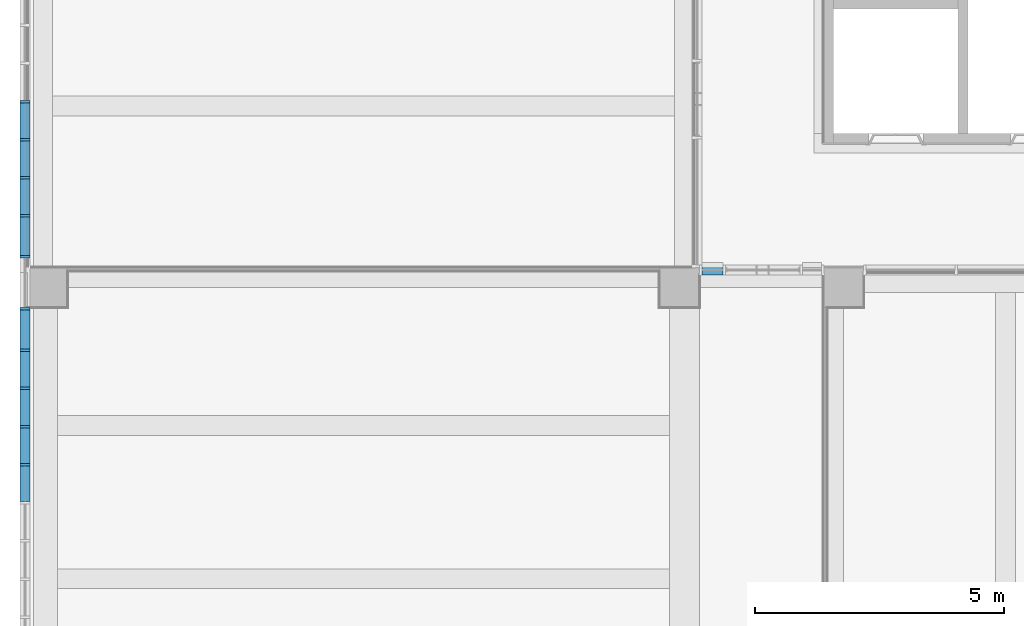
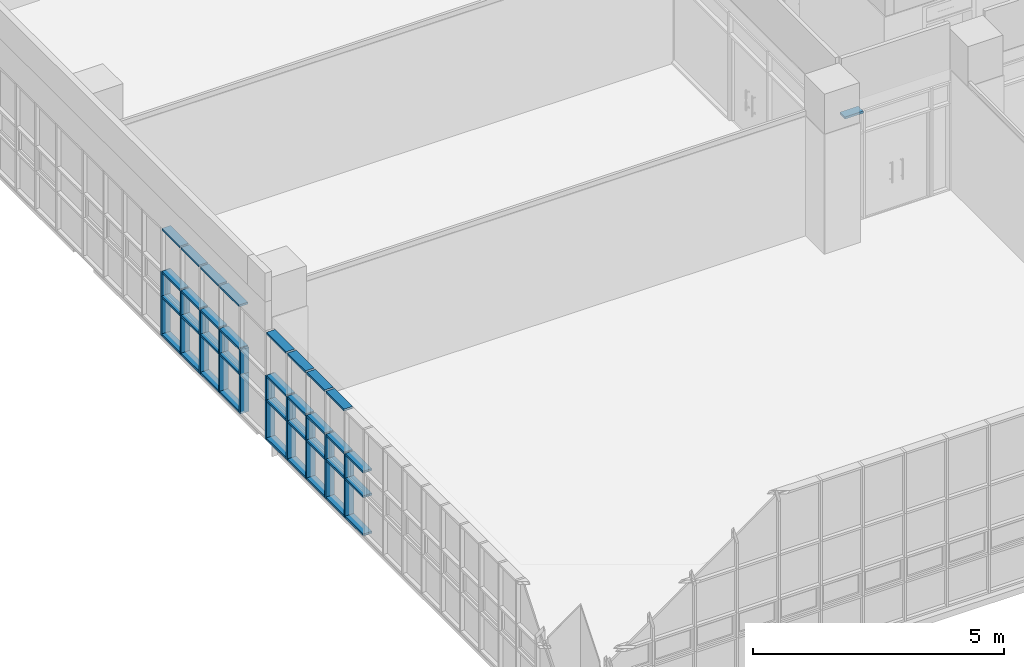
# One storey, part 14 of 76: 56 members, 2 elements without a shape of their own.
"""IFC2X3 building model written with IfcOpenShell, lengths in millimetres."""

from ifc_helpers import new_model, entity, si_unit, converted_unit, derived_unit, direction, frame, origin, origin_2d_with_axis, place, context, subcontext, project, spatial, rectangle, extrude, source, transform, mapped, material, type_object, type_shapes, element, aggregate, save


model = new_model("IFC2X3")

# Units and contexts
model_context = context("Model", 3, precision=0.01, world=origin(), true_north=direction((6.123031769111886e-17, 1.0)))
body_context = subcontext(model_context, "Body", "Model", "MODEL_VIEW")
ifc_project = project(units=[si_unit("LENGTHUNIT", "METRE", prefix="MILLI"), si_unit("AREAUNIT", "SQUARE_METRE"), si_unit("VOLUMEUNIT", "CUBIC_METRE"), converted_unit("PLANEANGLEUNIT", "DEGREE", entity("IfcRatioMeasure", 0.017453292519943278), si_unit("PLANEANGLEUNIT", "RADIAN"), dimensions=[0, 0, 0, 0, 0, 0, 0]), si_unit("MASSUNIT", "GRAM", prefix="KILO"), derived_unit("MASSDENSITYUNIT", [(si_unit("MASSUNIT", "GRAM", prefix="KILO"), 1), (si_unit("LENGTHUNIT", "METRE"), -3)]), derived_unit("MOMENTOFINERTIAUNIT", [(si_unit("LENGTHUNIT", "METRE"), 4)]), si_unit("TIMEUNIT", "SECOND"), si_unit("FREQUENCYUNIT", "HERTZ"), si_unit("THERMODYNAMICTEMPERATUREUNIT", "DEGREE_CELSIUS"), derived_unit("THERMALTRANSMITTANCEUNIT", [(si_unit("MASSUNIT", "GRAM", prefix="KILO"), 1), (si_unit("THERMODYNAMICTEMPERATUREUNIT", "KELVIN"), -1), (si_unit("TIMEUNIT", "SECOND"), -3)]), derived_unit("VOLUMETRICFLOWRATEUNIT", [(si_unit("LENGTHUNIT", "METRE"), 3), (si_unit("TIMEUNIT", "SECOND"), -1)]), derived_unit("MASSFLOWRATEUNIT", [(si_unit("MASSUNIT", "GRAM", prefix="KILO"), 1), (si_unit("TIMEUNIT", "SECOND"), -1)]), derived_unit("ROTATIONALFREQUENCYUNIT", [(si_unit("TIMEUNIT", "SECOND"), -1)]), si_unit("ELECTRICCURRENTUNIT", "AMPERE"), si_unit("ELECTRICVOLTAGEUNIT", "VOLT"), si_unit("POWERUNIT", "WATT"), si_unit("FORCEUNIT", "NEWTON", prefix="KILO"), si_unit("ILLUMINANCEUNIT", "LUX"), si_unit("LUMINOUSFLUXUNIT", "LUMEN"), si_unit("LUMINOUSINTENSITYUNIT", "CANDELA"), derived_unit("USERDEFINED", [(si_unit("MASSUNIT", "GRAM", prefix="KILO"), -1), (si_unit("LENGTHUNIT", "METRE"), -2), (si_unit("TIMEUNIT", "SECOND"), 3), (si_unit("LUMINOUSFLUXUNIT", "LUMEN"), 1)]), derived_unit("SOUNDPOWERUNIT", [(si_unit("MASSUNIT", "GRAM", prefix="KILO"), 1), (si_unit("LENGTHUNIT", "METRE"), 2), (si_unit("TIMEUNIT", "SECOND"), -3)]), derived_unit("SOUNDPRESSUREUNIT", [(si_unit("MASSUNIT", "GRAM", prefix="KILO"), 1), (si_unit("LENGTHUNIT", "METRE"), -1), (si_unit("TIMEUNIT", "SECOND"), -2)]), derived_unit("LINEARVELOCITYUNIT", [(si_unit("LENGTHUNIT", "METRE"), 1), (si_unit("TIMEUNIT", "SECOND"), -1)]), si_unit("PRESSUREUNIT", "PASCAL"), derived_unit("USERDEFINED", [(si_unit("LENGTHUNIT", "METRE"), -2), (si_unit("MASSUNIT", "GRAM", prefix="KILO"), 1), (si_unit("TIMEUNIT", "SECOND"), -2)]), derived_unit("LINEARFORCEUNIT", [(si_unit("MASSUNIT", "GRAM", prefix="KILO"), 1), (si_unit("LENGTHUNIT", "METRE"), 1), (si_unit("TIMEUNIT", "SECOND"), -2), (si_unit("LENGTHUNIT", "METRE"), -1)]), derived_unit("PLANARFORCEUNIT", [(si_unit("MASSUNIT", "GRAM", prefix="KILO"), 1), (si_unit("LENGTHUNIT", "METRE"), 1), (si_unit("TIMEUNIT", "SECOND"), -2), (si_unit("LENGTHUNIT", "METRE"), -2)])], contexts=[model_context])

# Site, building, storey
site_placement = place(None, frame((-14167.972527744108, -657.2125860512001, 0.0)))
site = spatial("IfcSite", under=ifc_project, at=site_placement, Name="Default", CompositionType="ELEMENT")
building_placement = place(site_placement, origin())
building = spatial("IfcBuilding", under=site, at=building_placement, Name="Sample Building", CompositionType="ELEMENT")
storey_placement = place(building_placement, frame((0.0, 0.0, 9300.0)))
storey = spatial("IfcBuildingStorey", under=building, at=storey_placement, Name="지상 3층", CompositionType="ELEMENT", Elevation=9300.000000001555)

# Curtain wall, members
curtain_wall_type = type_object("IfcCurtainWallType", Name="커튼월:CW112-스테인리스 스틸 커튼월", PredefinedType="NOTDEFINED")
curtain_wall_1_placement = place(storey_placement, frame((0.0, 0.0, -9300.0)))
curtain_wall_1 = element("IfcCurtainWall", 1, at=curtain_wall_1_placement, inside=storey, type_object=curtain_wall_type, Name="커튼월:CW112-스테인리스 스틸 커튼월", ObjectType="커튼월:CW112-스테인리스 스틸 커튼월")
ifc_material = material(Name="<Unnamed>")
member_type_1 = type_object("IfcMemberType", Name="직사각형 멀리언:CW200-직사각형 멀리언 50x200mm", PredefinedType="MULLION", material=ifc_material)
shared_shape_1 = source(origin(), body_context, "Body", "SweptSolid", [
    extrude(rectangle(XDim=200.0, YDim=50.0, at=origin_2d_with_axis()), frame((0.0, 0.0, -600.0), z_axis=(0.0, 0.0, 1.0), x_axis=(0.0, -1.0, 0.0)), (0.0, 0.0, 1.0), 600.0),
])
type_shapes(member_type_1, [shared_shape_1])
member_1_placement = place(curtain_wall_1_placement, frame((14018.58790484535, 15629.817707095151, 10330.0), z_axis=(0.0, 0.0, -1.0), x_axis=(0.0, -1.0, 0.0)))
member_1 = element("IfcMember", 2, at=member_1_placement, type_object=member_type_1, material=ifc_material, Name="직사각형 멀리언:CW200-직사각형 멀리언 50x200mm", ObjectType="직사각형 멀리언:CW200-직사각형 멀리언 50x200mm", context=body_context, shape_type="MappedRepresentation", body=[
    mapped(shared_shape_1, transform((0.0, 0.0, 0.0), scale=1.0)),
])
member_2_placement = place(curtain_wall_1_placement, frame((14018.587904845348, 14863.817707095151, 10330.0), z_axis=(0.0, 0.0, -1.0), x_axis=(0.0, -1.0, 0.0)))
member_2 = element("IfcMember", 3, at=member_2_placement, type_object=member_type_1, material=ifc_material, Name="직사각형 멀리언:CW200-직사각형 멀리언 50x200mm", ObjectType="직사각형 멀리언:CW200-직사각형 멀리언 50x200mm", context=body_context, shape_type="MappedRepresentation", body=[
    mapped(shared_shape_1, transform((0.0, 0.0, 0.0), scale=1.0)),
])
member_3_placement = place(curtain_wall_1_placement, frame((14018.587904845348, 14097.817707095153, 10330.0), z_axis=(0.0, 0.0, -1.0), x_axis=(0.0, -1.0, 0.0)))
member_3 = element("IfcMember", 4, at=member_3_placement, type_object=member_type_1, material=ifc_material, Name="직사각형 멀리언:CW200-직사각형 멀리언 50x200mm", ObjectType="직사각형 멀리언:CW200-직사각형 멀리언 50x200mm", context=body_context, shape_type="MappedRepresentation", body=[
    mapped(shared_shape_1, transform((0.0, 0.0, 0.0), scale=1.0)),
])
member_4_placement = place(curtain_wall_1_placement, frame((14018.587904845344, 12231.817707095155, 10330.0), z_axis=(0.0, 0.0, -1.0), x_axis=(0.0, -1.0, 0.0)))
member_4 = element("IfcMember", 5, at=member_4_placement, type_object=member_type_1, material=ifc_material, Name="직사각형 멀리언:CW200-직사각형 멀리언 50x200mm", ObjectType="직사각형 멀리언:CW200-직사각형 멀리언 50x200mm", context=body_context, shape_type="MappedRepresentation", body=[
    mapped(shared_shape_1, transform((0.0, 0.0, 0.0), scale=1.0)),
])
member_5_placement = place(curtain_wall_1_placement, frame((14018.587904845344, 11395.81770709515, 10330.0), z_axis=(0.0, 0.0, -1.0), x_axis=(0.0, -1.0, 0.0)))
member_5 = element("IfcMember", 6, at=member_5_placement, type_object=member_type_1, material=ifc_material, Name="직사각형 멀리언:CW200-직사각형 멀리언 50x200mm", ObjectType="직사각형 멀리언:CW200-직사각형 멀리언 50x200mm", context=body_context, shape_type="MappedRepresentation", body=[
    mapped(shared_shape_1, transform((0.0, 0.0, 0.0), scale=1.0)),
])
member_6_placement = place(curtain_wall_1_placement, frame((14018.587904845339, 9097.817707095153, 10330.0), z_axis=(0.0, 0.0, -1.0), x_axis=(0.0, -1.0, 0.0)))
member_6 = element("IfcMember", 7, at=member_6_placement, type_object=member_type_1, material=ifc_material, Name="직사각형 멀리언:CW200-직사각형 멀리언 50x200mm", ObjectType="직사각형 멀리언:CW200-직사각형 멀리언 50x200mm", context=body_context, shape_type="MappedRepresentation", body=[
    mapped(shared_shape_1, transform((0.0, 0.0, 0.0), scale=1.0)),
])
member_7_placement = place(curtain_wall_1_placement, frame((14018.587904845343, 9863.817707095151, 10330.0), z_axis=(0.0, 0.0, -1.0), x_axis=(0.0, -1.0, 0.0)))
member_7 = element("IfcMember", 8, at=member_7_placement, type_object=member_type_1, material=ifc_material, Name="직사각형 멀리언:CW200-직사각형 멀리언 50x200mm", ObjectType="직사각형 멀리언:CW200-직사각형 멀리언 50x200mm", context=body_context, shape_type="MappedRepresentation", body=[
    mapped(shared_shape_1, transform((0.0, 0.0, 0.0), scale=1.0)),
])
member_8_placement = place(curtain_wall_1_placement, frame((14018.587904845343, 10629.817707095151, 10330.0), z_axis=(0.0, 0.0, -1.0), x_axis=(0.0, -1.0, 0.0)))
member_8 = element("IfcMember", 9, at=member_8_placement, type_object=member_type_1, material=ifc_material, Name="직사각형 멀리언:CW200-직사각형 멀리언 50x200mm", ObjectType="직사각형 멀리언:CW200-직사각형 멀리언 50x200mm", context=body_context, shape_type="MappedRepresentation", body=[
    mapped(shared_shape_1, transform((0.0, 0.0, 0.0), scale=1.0)),
])
member_9_placement = place(curtain_wall_1_placement, frame((14018.58790484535, 16395.817707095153, 10330.0), z_axis=(0.0, 0.0, -1.0), x_axis=(0.0, -1.0, 0.0)))
member_9 = element("IfcMember", 10, at=member_9_placement, type_object=member_type_1, material=ifc_material, Name="직사각형 멀리언:CW200-직사각형 멀리언 50x200mm", ObjectType="직사각형 멀리언:CW200-직사각형 멀리언 50x200mm", context=body_context, shape_type="MappedRepresentation", body=[
    mapped(shared_shape_1, transform((0.0, 0.0, 0.0), scale=1.0)),
])
member_10_placement = place(curtain_wall_1_placement, frame((14018.587904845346, 13271.817707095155, 10330.0), z_axis=(0.0, 0.0, -1.0), x_axis=(0.0, -1.0, 0.0)))
member_10 = element("IfcMember", 11, at=member_10_placement, type_object=member_type_1, material=ifc_material, Name="직사각형 멀리언:CW200-직사각형 멀리언 50x200mm", ObjectType="직사각형 멀리언:CW200-직사각형 멀리언 50x200mm", context=body_context, shape_type="MappedRepresentation", body=[
    mapped(shared_shape_1, transform((0.0, 0.0, 0.0), scale=1.0)),
])

# Curtain wall, member
curtain_wall_2_placement = place(storey_placement, frame((0.0, 0.0, -9300.0)))
curtain_wall_2 = element("IfcCurtainWall", 12, at=curtain_wall_2_placement, inside=storey, type_object=curtain_wall_type, Name="커튼월:CW112-스테인리스 스틸 커튼월", ObjectType="커튼월:CW112-스테인리스 스틸 커튼월")
member_type_2 = type_object("IfcMemberType", Name="직사각형 멀리언:CW200-직사각형 멀리언 50x200mm", PredefinedType="MULLION", material=ifc_material)
shared_shape_2 = source(origin(), body_context, "Body", "SweptSolid", [
    extrude(rectangle(XDim=200.0, YDim=50.0, at=origin_2d_with_axis()), frame((-25.0, 0.0, -423.1454999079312), z_axis=(0.0, 0.0, 1.0), x_axis=(0.0, -1.0, 0.0)), (0.0, 0.0, 1.0), 423.1454999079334),
])
type_shapes(member_type_2, [shared_shape_2])
member_11_placement = place(curtain_wall_2_placement, frame((27617.980314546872, 13012.212307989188, 12000.0), z_axis=(-1.0, 0.0, 0.0), x_axis=(0.0, 0.0, 1.0)))
member_11 = element("IfcMember", 13, at=member_11_placement, type_object=member_type_2, material=ifc_material, Name="직사각형 멀리언:CW200-직사각형 멀리언 50x200mm", ObjectType="직사각형 멀리언:CW200-직사각형 멀리언 50x200mm", context=body_context, shape_type="MappedRepresentation", body=[
    mapped(shared_shape_2, transform((0.0, 0.0, 0.0), scale=1.0)),
])
aggregate(curtain_wall_2, [member_11])

# Member
member_type_3 = type_object("IfcMemberType", Name="직사각형 멀리언:CW200-직사각형 멀리언 50x200mm", PredefinedType="MULLION", material=ifc_material)
shared_shape_3 = source(origin(), body_context, "Body", "SweptSolid", [
    extrude(rectangle(XDim=200.0, YDim=50.0, at=origin_2d_with_axis()), frame((0.0, 0.0, -950.0), z_axis=(0.0, 0.0, 1.0), x_axis=(0.0, -1.0, 0.0)), (0.0, 0.0, 1.0), 949.9999999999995),
])
type_shapes(member_type_3, [shared_shape_3])
member_12_placement = place(curtain_wall_1_placement, frame((14018.58790484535, 15629.817707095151, 9380.0), z_axis=(0.0, 0.0, -1.0), x_axis=(0.0, -1.0, 0.0)))
member_12 = element("IfcMember", 14, at=member_12_placement, type_object=member_type_3, material=ifc_material, Name="직사각형 멀리언:CW200-직사각형 멀리언 50x200mm", ObjectType="직사각형 멀리언:CW200-직사각형 멀리언 50x200mm", context=body_context, shape_type="MappedRepresentation", body=[
    mapped(shared_shape_3, transform((0.0, 0.0, 0.0), scale=1.0)),
])

member_13_placement = place(curtain_wall_1_placement, frame((14018.587904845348, 14863.81770709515, 9380.0), z_axis=(0.0, 0.0, -1.0), x_axis=(0.0, -1.0, 0.0)))
member_13 = element("IfcMember", 15, at=member_13_placement, type_object=member_type_3, material=ifc_material, Name="직사각형 멀리언:CW200-직사각형 멀리언 50x200mm", ObjectType="직사각형 멀리언:CW200-직사각형 멀리언 50x200mm", context=body_context, shape_type="MappedRepresentation", body=[
    mapped(shared_shape_3, transform((0.0, 0.0, 0.0), scale=1.0)),
])

member_14_placement = place(curtain_wall_1_placement, frame((14018.587904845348, 14097.817707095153, 9380.0), z_axis=(0.0, 0.0, -1.0), x_axis=(0.0, -1.0, 0.0)))
member_14 = element("IfcMember", 16, at=member_14_placement, type_object=member_type_3, material=ifc_material, Name="직사각형 멀리언:CW200-직사각형 멀리언 50x200mm", ObjectType="직사각형 멀리언:CW200-직사각형 멀리언 50x200mm", context=body_context, shape_type="MappedRepresentation", body=[
    mapped(shared_shape_3, transform((0.0, 0.0, 0.0), scale=1.0)),
])

member_15_placement = place(curtain_wall_1_placement, frame((14018.587904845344, 12231.817707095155, 9380.0), z_axis=(0.0, 0.0, -1.0), x_axis=(0.0, -1.0, 0.0)))
member_15 = element("IfcMember", 17, at=member_15_placement, type_object=member_type_3, material=ifc_material, Name="직사각형 멀리언:CW200-직사각형 멀리언 50x200mm", ObjectType="직사각형 멀리언:CW200-직사각형 멀리언 50x200mm", context=body_context, shape_type="MappedRepresentation", body=[
    mapped(shared_shape_3, transform((0.0, 0.0, 0.0), scale=1.0)),
])

member_16_placement = place(curtain_wall_1_placement, frame((14018.587904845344, 11395.81770709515, 9380.0), z_axis=(0.0, 0.0, -1.0), x_axis=(0.0, -1.0, 0.0)))
member_16 = element("IfcMember", 18, at=member_16_placement, type_object=member_type_3, material=ifc_material, Name="직사각형 멀리언:CW200-직사각형 멀리언 50x200mm", ObjectType="직사각형 멀리언:CW200-직사각형 멀리언 50x200mm", context=body_context, shape_type="MappedRepresentation", body=[
    mapped(shared_shape_3, transform((0.0, 0.0, 0.0), scale=1.0)),
])

member_17_placement = place(curtain_wall_1_placement, frame((14018.587904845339, 9097.817707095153, 9380.0), z_axis=(0.0, 0.0, -1.0), x_axis=(0.0, -1.0, 0.0)))
member_17 = element("IfcMember", 19, at=member_17_placement, type_object=member_type_3, material=ifc_material, Name="직사각형 멀리언:CW200-직사각형 멀리언 50x200mm", ObjectType="직사각형 멀리언:CW200-직사각형 멀리언 50x200mm", context=body_context, shape_type="MappedRepresentation", body=[
    mapped(shared_shape_3, transform((0.0, 0.0, 0.0), scale=1.0)),
])

member_18_placement = place(curtain_wall_1_placement, frame((14018.587904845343, 9863.817707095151, 9380.0), z_axis=(0.0, 0.0, -1.0), x_axis=(0.0, -1.0, 0.0)))
member_18 = element("IfcMember", 20, at=member_18_placement, type_object=member_type_3, material=ifc_material, Name="직사각형 멀리언:CW200-직사각형 멀리언 50x200mm", ObjectType="직사각형 멀리언:CW200-직사각형 멀리언 50x200mm", context=body_context, shape_type="MappedRepresentation", body=[
    mapped(shared_shape_3, transform((0.0, 0.0, 0.0), scale=1.0)),
])

member_19_placement = place(curtain_wall_1_placement, frame((14018.587904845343, 10629.817707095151, 9380.0), z_axis=(0.0, 0.0, -1.0), x_axis=(0.0, -1.0, 0.0)))
member_19 = element("IfcMember", 21, at=member_19_placement, type_object=member_type_3, material=ifc_material, Name="직사각형 멀리언:CW200-직사각형 멀리언 50x200mm", ObjectType="직사각형 멀리언:CW200-직사각형 멀리언 50x200mm", context=body_context, shape_type="MappedRepresentation", body=[
    mapped(shared_shape_3, transform((0.0, 0.0, 0.0), scale=1.0)),
])

member_20_placement = place(curtain_wall_1_placement, frame((14018.58790484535, 16395.817707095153, 9380.0), z_axis=(0.0, 0.0, -1.0), x_axis=(0.0, -1.0, 0.0)))
member_20 = element("IfcMember", 22, at=member_20_placement, type_object=member_type_3, material=ifc_material, Name="직사각형 멀리언:CW200-직사각형 멀리언 50x200mm", ObjectType="직사각형 멀리언:CW200-직사각형 멀리언 50x200mm", context=body_context, shape_type="MappedRepresentation", body=[
    mapped(shared_shape_3, transform((0.0, 0.0, 0.0), scale=1.0)),
])

member_21_placement = place(curtain_wall_1_placement, frame((14018.587904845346, 13271.817707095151, 9380.0), z_axis=(0.0, 0.0, -1.0), x_axis=(0.0, -1.0, 0.0)))
member_21 = element("IfcMember", 23, at=member_21_placement, type_object=member_type_3, material=ifc_material, Name="직사각형 멀리언:CW200-직사각형 멀리언 50x200mm", ObjectType="직사각형 멀리언:CW200-직사각형 멀리언 50x200mm", context=body_context, shape_type="MappedRepresentation", body=[
    mapped(shared_shape_3, transform((0.0, 0.0, 0.0), scale=1.0)),
])

member_type_4 = type_object("IfcMemberType", Name="직사각형 멀리언:CW200-직사각형 멀리언 50x200mm", PredefinedType="MULLION", material=ifc_material)
shared_shape_4 = source(origin(), body_context, "Body", "SweptSolid", [
    extrude(rectangle(XDim=200.0, YDim=50.0, at=origin_2d_with_axis()), frame((-25.0, 0.0, -776.0), z_axis=(0.0, 0.0, 1.0), x_axis=(0.0, -1.0, 0.0)), (0.0, 0.0, 1.0), 776.0000000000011),
])
type_shapes(member_type_4, [shared_shape_4])
member_22_placement = place(curtain_wall_1_placement, frame((14018.587904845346, 13296.817707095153, 12000.0), z_axis=(0.0, -1.0, 0.0), x_axis=(0.0, 0.0, 1.0)))
member_22 = element("IfcMember", 24, at=member_22_placement, type_object=member_type_4, material=ifc_material, Name="직사각형 멀리언:CW200-직사각형 멀리언 50x200mm", ObjectType="직사각형 멀리언:CW200-직사각형 멀리언 50x200mm", context=body_context, shape_type="MappedRepresentation", body=[
    mapped(shared_shape_4, transform((0.0, 0.0, 0.0), scale=1.0)),
])

member_type_5 = type_object("IfcMemberType", Name="직사각형 멀리언:CW200-직사각형 멀리언 50x200mm", PredefinedType="MULLION", material=ifc_material)
shared_shape_5 = source(origin(), body_context, "Body", "SweptSolid", [
    extrude(rectangle(XDim=200.0, YDim=50.0, at=origin_2d_with_axis()), frame((-25.0, 0.0, -716.0), z_axis=(0.0, 0.0, 1.0), x_axis=(0.0, -1.0, 0.0)), (0.0, 0.0, 1.0), 715.9999999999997),
])
type_shapes(member_type_5, [shared_shape_5])
member_23_placement = place(curtain_wall_1_placement, frame((14018.58790484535, 15604.81770709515, 9380.0), z_axis=(0.0, 1.0, 0.0), x_axis=(0.0, 0.0, -1.0)))
member_23 = element("IfcMember", 25, at=member_23_placement, type_object=member_type_5, material=ifc_material, Name="직사각형 멀리언:CW200-직사각형 멀리언 50x200mm", ObjectType="직사각형 멀리언:CW200-직사각형 멀리언 50x200mm", context=body_context, shape_type="MappedRepresentation", body=[
    mapped(shared_shape_5, transform((0.0, 0.0, 0.0), scale=1.0)),
])

member_24_placement = place(curtain_wall_1_placement, frame((14018.587904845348, 14838.81770709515, 9380.0), z_axis=(0.0, 1.0, 0.0), x_axis=(0.0, 0.0, -1.0)))
member_24 = element("IfcMember", 26, at=member_24_placement, type_object=member_type_5, material=ifc_material, Name="직사각형 멀리언:CW200-직사각형 멀리언 50x200mm", ObjectType="직사각형 멀리언:CW200-직사각형 멀리언 50x200mm", context=body_context, shape_type="MappedRepresentation", body=[
    mapped(shared_shape_5, transform((0.0, 0.0, 0.0), scale=1.0)),
])

member_25_placement = place(curtain_wall_1_placement, frame((14018.587904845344, 11370.81770709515, 9380.0), z_axis=(0.0, 1.0, 0.0), x_axis=(0.0, 0.0, -1.0)))
member_25 = element("IfcMember", 27, at=member_25_placement, type_object=member_type_5, material=ifc_material, Name="직사각형 멀리언:CW200-직사각형 멀리언 50x200mm", ObjectType="직사각형 멀리언:CW200-직사각형 멀리언 50x200mm", context=body_context, shape_type="MappedRepresentation", body=[
    mapped(shared_shape_5, transform((0.0, 0.0, 0.0), scale=1.0)),
])

member_26_placement = place(curtain_wall_1_placement, frame((14018.587904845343, 10604.81770709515, 9380.0), z_axis=(0.0, 1.0, 0.0), x_axis=(0.0, 0.0, -1.0)))
member_26 = element("IfcMember", 28, at=member_26_placement, type_object=member_type_5, material=ifc_material, Name="직사각형 멀리언:CW200-직사각형 멀리언 50x200mm", ObjectType="직사각형 멀리언:CW200-직사각형 멀리언 50x200mm", context=body_context, shape_type="MappedRepresentation", body=[
    mapped(shared_shape_5, transform((0.0, 0.0, 0.0), scale=1.0)),
])

member_27_placement = place(curtain_wall_1_placement, frame((14018.587904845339, 9072.817707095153, 9380.0), z_axis=(0.0, 1.0, 0.0), x_axis=(0.0, 0.0, -1.0)))
member_27 = element("IfcMember", 29, at=member_27_placement, type_object=member_type_5, material=ifc_material, Name="직사각형 멀리언:CW200-직사각형 멀리언 50x200mm", ObjectType="직사각형 멀리언:CW200-직사각형 멀리언 50x200mm", context=body_context, shape_type="MappedRepresentation", body=[
    mapped(shared_shape_5, transform((0.0, 0.0, 0.0), scale=1.0)),
])

member_28_placement = place(curtain_wall_1_placement, frame((14018.587904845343, 9838.817707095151, 9380.0), z_axis=(0.0, 1.0, 0.0), x_axis=(0.0, 0.0, -1.0)))
member_28 = element("IfcMember", 30, at=member_28_placement, type_object=member_type_5, material=ifc_material, Name="직사각형 멀리언:CW200-직사각형 멀리언 50x200mm", ObjectType="직사각형 멀리언:CW200-직사각형 멀리언 50x200mm", context=body_context, shape_type="MappedRepresentation", body=[
    mapped(shared_shape_5, transform((0.0, 0.0, 0.0), scale=1.0)),
])

member_29_placement = place(curtain_wall_1_placement, frame((14018.58790484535, 16370.817707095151, 9380.0), z_axis=(0.0, 1.0, 0.0), x_axis=(0.0, 0.0, -1.0)))
member_29 = element("IfcMember", 31, at=member_29_placement, type_object=member_type_5, material=ifc_material, Name="직사각형 멀리언:CW200-직사각형 멀리언 50x200mm", ObjectType="직사각형 멀리언:CW200-직사각형 멀리언 50x200mm", context=body_context, shape_type="MappedRepresentation", body=[
    mapped(shared_shape_5, transform((0.0, 0.0, 0.0), scale=1.0)),
])

member_type_6 = type_object("IfcMemberType", Name="직사각형 멀리언:CW200-직사각형 멀리언 50x200mm", PredefinedType="MULLION", material=ifc_material)
shared_shape_6 = source(origin(), body_context, "Body", "SweptSolid", [
    extrude(rectangle(XDim=200.0, YDim=50.0, at=origin_2d_with_axis()), frame((0.0, 0.0, -716.0), z_axis=(0.0, 0.0, 1.0), x_axis=(0.0, -1.0, 0.0)), (0.0, 0.0, 1.0), 715.9999999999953),
])
type_shapes(member_type_6, [shared_shape_6])
member_30_placement = place(curtain_wall_1_placement, frame((14018.587904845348, 14888.817707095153, 10330.0), z_axis=(0.0, -1.0, 0.0), x_axis=(0.0, 0.0, 1.0)))
member_30 = element("IfcMember", 32, at=member_30_placement, type_object=member_type_6, material=ifc_material, Name="직사각형 멀리언:CW200-직사각형 멀리언 50x200mm", ObjectType="직사각형 멀리언:CW200-직사각형 멀리언 50x200mm", context=body_context, shape_type="MappedRepresentation", body=[
    mapped(shared_shape_6, transform((0.0, 0.0, 0.0), scale=1.0)),
])

member_31_placement = place(curtain_wall_1_placement, frame((14018.587904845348, 14888.817707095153, 10930.0), z_axis=(0.0, -1.0, 0.0), x_axis=(0.0, 0.0, 1.0)))
member_31 = element("IfcMember", 33, at=member_31_placement, type_object=member_type_6, material=ifc_material, Name="직사각형 멀리언:CW200-직사각형 멀리언 50x200mm", ObjectType="직사각형 멀리언:CW200-직사각형 멀리언 50x200mm", context=body_context, shape_type="MappedRepresentation", body=[
    mapped(shared_shape_6, transform((0.0, 0.0, 0.0), scale=1.0)),
])

member_32_placement = place(curtain_wall_1_placement, frame((14018.587904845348, 14122.817707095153, 10330.0), z_axis=(0.0, -1.0, 0.0), x_axis=(0.0, 0.0, 1.0)))
member_32 = element("IfcMember", 34, at=member_32_placement, type_object=member_type_6, material=ifc_material, Name="직사각형 멀리언:CW200-직사각형 멀리언 50x200mm", ObjectType="직사각형 멀리언:CW200-직사각형 멀리언 50x200mm", context=body_context, shape_type="MappedRepresentation", body=[
    mapped(shared_shape_6, transform((0.0, 0.0, 0.0), scale=1.0)),
])

member_33_placement = place(curtain_wall_1_placement, frame((14018.587904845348, 14122.817707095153, 10930.0), z_axis=(0.0, -1.0, 0.0), x_axis=(0.0, 0.0, 1.0)))
member_33 = element("IfcMember", 35, at=member_33_placement, type_object=member_type_6, material=ifc_material, Name="직사각형 멀리언:CW200-직사각형 멀리언 50x200mm", ObjectType="직사각형 멀리언:CW200-직사각형 멀리언 50x200mm", context=body_context, shape_type="MappedRepresentation", body=[
    mapped(shared_shape_6, transform((0.0, 0.0, 0.0), scale=1.0)),
])

member_34_placement = place(curtain_wall_1_placement, frame((14018.587904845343, 10654.817707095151, 10330.0), z_axis=(0.0, -1.0, 0.0), x_axis=(0.0, 0.0, 1.0)))
member_34 = element("IfcMember", 36, at=member_34_placement, type_object=member_type_6, material=ifc_material, Name="직사각형 멀리언:CW200-직사각형 멀리언 50x200mm", ObjectType="직사각형 멀리언:CW200-직사각형 멀리언 50x200mm", context=body_context, shape_type="MappedRepresentation", body=[
    mapped(shared_shape_6, transform((0.0, 0.0, 0.0), scale=1.0)),
])

member_35_placement = place(curtain_wall_1_placement, frame((14018.587904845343, 10654.817707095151, 10930.0), z_axis=(0.0, -1.0, 0.0), x_axis=(0.0, 0.0, 1.0)))
member_35 = element("IfcMember", 37, at=member_35_placement, type_object=member_type_6, material=ifc_material, Name="직사각형 멀리언:CW200-직사각형 멀리언 50x200mm", ObjectType="직사각형 멀리언:CW200-직사각형 멀리언 50x200mm", context=body_context, shape_type="MappedRepresentation", body=[
    mapped(shared_shape_6, transform((0.0, 0.0, 0.0), scale=1.0)),
])

member_36_placement = place(curtain_wall_1_placement, frame((14018.587904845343, 9888.817707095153, 10330.0), z_axis=(0.0, -1.0, 0.0), x_axis=(0.0, 0.0, 1.0)))
member_36 = element("IfcMember", 38, at=member_36_placement, type_object=member_type_6, material=ifc_material, Name="직사각형 멀리언:CW200-직사각형 멀리언 50x200mm", ObjectType="직사각형 멀리언:CW200-직사각형 멀리언 50x200mm", context=body_context, shape_type="MappedRepresentation", body=[
    mapped(shared_shape_6, transform((0.0, 0.0, 0.0), scale=1.0)),
])

member_37_placement = place(curtain_wall_1_placement, frame((14018.587904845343, 9888.817707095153, 10930.0), z_axis=(0.0, -1.0, 0.0), x_axis=(0.0, 0.0, 1.0)))
member_37 = element("IfcMember", 39, at=member_37_placement, type_object=member_type_6, material=ifc_material, Name="직사각형 멀리언:CW200-직사각형 멀리언 50x200mm", ObjectType="직사각형 멀리언:CW200-직사각형 멀리언 50x200mm", context=body_context, shape_type="MappedRepresentation", body=[
    mapped(shared_shape_6, transform((0.0, 0.0, 0.0), scale=1.0)),
])

member_38_placement = place(curtain_wall_1_placement, frame((14018.587904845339, 8356.817707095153, 10330.0), z_axis=(0.0, -1.0, 0.0), x_axis=(0.0, 0.0, 1.0)))
member_38 = element("IfcMember", 40, at=member_38_placement, type_object=member_type_6, material=ifc_material, Name="직사각형 멀리언:CW200-직사각형 멀리언 50x200mm", ObjectType="직사각형 멀리언:CW200-직사각형 멀리언 50x200mm", context=body_context, shape_type="MappedRepresentation", body=[
    mapped(shared_shape_6, transform((0.0, 0.0, 0.0), scale=1.0)),
])

member_39_placement = place(curtain_wall_1_placement, frame((14018.587904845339, 8356.817707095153, 10930.0), z_axis=(0.0, -1.0, 0.0), x_axis=(0.0, 0.0, 1.0)))
member_39 = element("IfcMember", 41, at=member_39_placement, type_object=member_type_6, material=ifc_material, Name="직사각형 멀리언:CW200-직사각형 멀리언 50x200mm", ObjectType="직사각형 멀리언:CW200-직사각형 멀리언 50x200mm", context=body_context, shape_type="MappedRepresentation", body=[
    mapped(shared_shape_6, transform((0.0, 0.0, 0.0), scale=1.0)),
])

member_40_placement = place(curtain_wall_1_placement, frame((14018.587904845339, 9122.817707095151, 10330.0), z_axis=(0.0, -1.0, 0.0), x_axis=(0.0, 0.0, 1.0)))
member_40 = element("IfcMember", 42, at=member_40_placement, type_object=member_type_6, material=ifc_material, Name="직사각형 멀리언:CW200-직사각형 멀리언 50x200mm", ObjectType="직사각형 멀리언:CW200-직사각형 멀리언 50x200mm", context=body_context, shape_type="MappedRepresentation", body=[
    mapped(shared_shape_6, transform((0.0, 0.0, 0.0), scale=1.0)),
])

member_41_placement = place(curtain_wall_1_placement, frame((14018.587904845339, 9122.817707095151, 10930.0), z_axis=(0.0, -1.0, 0.0), x_axis=(0.0, 0.0, 1.0)))
member_41 = element("IfcMember", 43, at=member_41_placement, type_object=member_type_6, material=ifc_material, Name="직사각형 멀리언:CW200-직사각형 멀리언 50x200mm", ObjectType="직사각형 멀리언:CW200-직사각형 멀리언 50x200mm", context=body_context, shape_type="MappedRepresentation", body=[
    mapped(shared_shape_6, transform((0.0, 0.0, 0.0), scale=1.0)),
])

member_42_placement = place(curtain_wall_1_placement, frame((14018.58790484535, 15654.817707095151, 10330.0), z_axis=(0.0, -1.0, 0.0), x_axis=(0.0, 0.0, 1.0)))
member_42 = element("IfcMember", 44, at=member_42_placement, type_object=member_type_6, material=ifc_material, Name="직사각형 멀리언:CW200-직사각형 멀리언 50x200mm", ObjectType="직사각형 멀리언:CW200-직사각형 멀리언 50x200mm", context=body_context, shape_type="MappedRepresentation", body=[
    mapped(shared_shape_6, transform((0.0, 0.0, 0.0), scale=1.0)),
])

member_43_placement = place(curtain_wall_1_placement, frame((14018.58790484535, 15654.81770709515, 10930.0), z_axis=(0.0, -1.0, 0.0), x_axis=(0.0, 0.0, 1.0)))
member_43 = element("IfcMember", 45, at=member_43_placement, type_object=member_type_6, material=ifc_material, Name="직사각형 멀리언:CW200-직사각형 멀리언 50x200mm", ObjectType="직사각형 멀리언:CW200-직사각형 멀리언 50x200mm", context=body_context, shape_type="MappedRepresentation", body=[
    mapped(shared_shape_6, transform((0.0, 0.0, 0.0), scale=1.0)),
])

member_type_7 = type_object("IfcMemberType", Name="직사각형 멀리언:CW200-직사각형 멀리언 50x200mm", PredefinedType="MULLION", material=ifc_material)
shared_shape_7 = source(origin(), body_context, "Body", "SweptSolid", [
    extrude(rectangle(XDim=200.0, YDim=50.0, at=origin_2d_with_axis()), frame((-25.0, 0.0, -776.0), z_axis=(0.0, 0.0, 1.0), x_axis=(0.0, -1.0, 0.0)), (0.0, 0.0, 1.0), 776.0000000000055),
])
type_shapes(member_type_7, [shared_shape_7])
member_44_placement = place(curtain_wall_1_placement, frame((14018.587904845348, 14072.817707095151, 9380.0), z_axis=(0.0, 1.0, 0.0), x_axis=(0.0, 0.0, -1.0)))
member_44 = element("IfcMember", 46, at=member_44_placement, type_object=member_type_7, material=ifc_material, Name="직사각형 멀리언:CW200-직사각형 멀리언 50x200mm", ObjectType="직사각형 멀리언:CW200-직사각형 멀리언 50x200mm", context=body_context, shape_type="MappedRepresentation", body=[
    mapped(shared_shape_7, transform((0.0, 0.0, 0.0), scale=1.0)),
])

member_type_8 = type_object("IfcMemberType", Name="직사각형 멀리언:CW200-직사각형 멀리언 50x200mm", PredefinedType="MULLION", material=ifc_material)
shared_shape_8 = source(origin(), body_context, "Body", "SweptSolid", [
    extrude(rectangle(XDim=200.0, YDim=50.0, at=origin_2d_with_axis()), frame((0.0, 0.0, -776.0), z_axis=(0.0, 0.0, 1.0), x_axis=(0.0, -1.0, 0.0)), (0.0, 0.0, 1.0), 776.0000000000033),
])
type_shapes(member_type_8, [shared_shape_8])
member_45_placement = place(curtain_wall_1_placement, frame((14018.587904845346, 13296.817707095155, 10330.0), z_axis=(0.0, -1.0, 0.0), x_axis=(0.0, 0.0, 1.0)))
member_45 = element("IfcMember", 47, at=member_45_placement, type_object=member_type_8, material=ifc_material, Name="직사각형 멀리언:CW200-직사각형 멀리언 50x200mm", ObjectType="직사각형 멀리언:CW200-직사각형 멀리언 50x200mm", context=body_context, shape_type="MappedRepresentation", body=[
    mapped(shared_shape_8, transform((0.0, 0.0, 0.0), scale=1.0)),
])

member_46_placement = place(curtain_wall_1_placement, frame((14018.587904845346, 13296.817707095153, 10930.0), z_axis=(0.0, -1.0, 0.0), x_axis=(0.0, 0.0, 1.0)))
member_46 = element("IfcMember", 48, at=member_46_placement, type_object=member_type_8, material=ifc_material, Name="직사각형 멀리언:CW200-직사각형 멀리언 50x200mm", ObjectType="직사각형 멀리언:CW200-직사각형 멀리언 50x200mm", context=body_context, shape_type="MappedRepresentation", body=[
    mapped(shared_shape_8, transform((0.0, 0.0, 0.0), scale=1.0)),
])

member_type_9 = type_object("IfcMemberType", Name="직사각형 멀리언:CW200-직사각형 멀리언 50x200mm", PredefinedType="MULLION", material=ifc_material)
shared_shape_9 = source(origin(), body_context, "Body", "SweptSolid", [
    extrude(rectangle(XDim=200.0, YDim=50.0, at=origin_2d_with_axis()), frame((-25.0, 0.0, -716.0), z_axis=(0.0, 0.0, 1.0), x_axis=(0.0, -1.0, 0.0)), (0.0, 0.0, 1.0), 715.9999999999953),
])
type_shapes(member_type_9, [shared_shape_9])
member_47_placement = place(curtain_wall_1_placement, frame((14018.58790484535, 15654.81770709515, 12000.0), z_axis=(0.0, -1.0, 0.0), x_axis=(0.0, 0.0, 1.0)))
member_47 = element("IfcMember", 49, at=member_47_placement, type_object=member_type_9, material=ifc_material, Name="직사각형 멀리언:CW200-직사각형 멀리언 50x200mm", ObjectType="직사각형 멀리언:CW200-직사각형 멀리언 50x200mm", context=body_context, shape_type="MappedRepresentation", body=[
    mapped(shared_shape_9, transform((0.0, 0.0, 0.0), scale=1.0)),
])

member_48_placement = place(curtain_wall_1_placement, frame((14018.587904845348, 14888.817707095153, 12000.0), z_axis=(0.0, -1.0, 0.0), x_axis=(0.0, 0.0, 1.0)))
member_48 = element("IfcMember", 50, at=member_48_placement, type_object=member_type_9, material=ifc_material, Name="직사각형 멀리언:CW200-직사각형 멀리언 50x200mm", ObjectType="직사각형 멀리언:CW200-직사각형 멀리언 50x200mm", context=body_context, shape_type="MappedRepresentation", body=[
    mapped(shared_shape_9, transform((0.0, 0.0, 0.0), scale=1.0)),
])

member_49_placement = place(curtain_wall_1_placement, frame((14018.587904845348, 14122.817707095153, 12000.0), z_axis=(0.0, -1.0, 0.0), x_axis=(0.0, 0.0, 1.0)))
member_49 = element("IfcMember", 51, at=member_49_placement, type_object=member_type_9, material=ifc_material, Name="직사각형 멀리언:CW200-직사각형 멀리언 50x200mm", ObjectType="직사각형 멀리언:CW200-직사각형 멀리언 50x200mm", context=body_context, shape_type="MappedRepresentation", body=[
    mapped(shared_shape_9, transform((0.0, 0.0, 0.0), scale=1.0)),
])

member_50_placement = place(curtain_wall_1_placement, frame((14018.587904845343, 10654.817707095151, 12000.0), z_axis=(0.0, -1.0, 0.0), x_axis=(0.0, 0.0, 1.0)))
member_50 = element("IfcMember", 52, at=member_50_placement, type_object=member_type_9, material=ifc_material, Name="직사각형 멀리언:CW200-직사각형 멀리언 50x200mm", ObjectType="직사각형 멀리언:CW200-직사각형 멀리언 50x200mm", context=body_context, shape_type="MappedRepresentation", body=[
    mapped(shared_shape_9, transform((0.0, 0.0, 0.0), scale=1.0)),
])

member_51_placement = place(curtain_wall_1_placement, frame((14018.587904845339, 9122.817707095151, 12000.0), z_axis=(0.0, -1.0, 0.0), x_axis=(0.0, 0.0, 1.0)))
member_51 = element("IfcMember", 53, at=member_51_placement, type_object=member_type_9, material=ifc_material, Name="직사각형 멀리언:CW200-직사각형 멀리언 50x200mm", ObjectType="직사각형 멀리언:CW200-직사각형 멀리언 50x200mm", context=body_context, shape_type="MappedRepresentation", body=[
    mapped(shared_shape_9, transform((0.0, 0.0, 0.0), scale=1.0)),
])

member_52_placement = place(curtain_wall_1_placement, frame((14018.587904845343, 9888.817707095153, 12000.0), z_axis=(0.0, -1.0, 0.0), x_axis=(0.0, 0.0, 1.0)))
member_52 = element("IfcMember", 54, at=member_52_placement, type_object=member_type_9, material=ifc_material, Name="직사각형 멀리언:CW200-직사각형 멀리언 50x200mm", ObjectType="직사각형 멀리언:CW200-직사각형 멀리언 50x200mm", context=body_context, shape_type="MappedRepresentation", body=[
    mapped(shared_shape_9, transform((0.0, 0.0, 0.0), scale=1.0)),
])

member_type_10 = type_object("IfcMemberType", Name="직사각형 멀리언:CW200-직사각형 멀리언 50x200mm", PredefinedType="MULLION", material=ifc_material)
shared_shape_10 = source(origin(), body_context, "Body", "SweptSolid", [
    extrude(rectangle(XDim=200.0, YDim=50.0, at=origin_2d_with_axis()), frame((-25.0, 0.0, -786.0), z_axis=(0.0, 0.0, 1.0), x_axis=(0.0, -1.0, 0.0)), (0.0, 0.0, 1.0), 786.0000000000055),
])
type_shapes(member_type_10, [shared_shape_10])
member_53_placement = place(curtain_wall_1_placement, frame((14018.587904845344, 12206.817707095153, 9380.0), z_axis=(0.0, 1.0, 0.0), x_axis=(0.0, 0.0, -1.0)))
member_53 = element("IfcMember", 55, at=member_53_placement, type_object=member_type_10, material=ifc_material, Name="직사각형 멀리언:CW200-직사각형 멀리언 50x200mm", ObjectType="직사각형 멀리언:CW200-직사각형 멀리언 50x200mm", context=body_context, shape_type="MappedRepresentation", body=[
    mapped(shared_shape_10, transform((0.0, 0.0, 0.0), scale=1.0)),
])

member_type_11 = type_object("IfcMemberType", Name="직사각형 멀리언:CW200-직사각형 멀리언 50x200mm", PredefinedType="MULLION", material=ifc_material)
shared_shape_11 = source(origin(), body_context, "Body", "SweptSolid", [
    extrude(rectangle(XDim=200.0, YDim=50.0, at=origin_2d_with_axis()), frame((0.0, 0.0, -786.0), z_axis=(0.0, 0.0, 1.0), x_axis=(0.0, -1.0, 0.0)), (0.0, 0.0, 1.0), 786.0000000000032),
])
type_shapes(member_type_11, [shared_shape_11])
member_54_placement = place(curtain_wall_1_placement, frame((14018.587904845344, 11420.817707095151, 10330.0), z_axis=(0.0, -1.0, 0.0), x_axis=(0.0, 0.0, 1.0)))
member_54 = element("IfcMember", 56, at=member_54_placement, type_object=member_type_11, material=ifc_material, Name="직사각형 멀리언:CW200-직사각형 멀리언 50x200mm", ObjectType="직사각형 멀리언:CW200-직사각형 멀리언 50x200mm", context=body_context, shape_type="MappedRepresentation", body=[
    mapped(shared_shape_11, transform((0.0, 0.0, 0.0), scale=1.0)),
])

member_55_placement = place(curtain_wall_1_placement, frame((14018.587904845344, 11420.817707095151, 10930.0), z_axis=(0.0, -1.0, 0.0), x_axis=(0.0, 0.0, 1.0)))
member_55 = element("IfcMember", 57, at=member_55_placement, type_object=member_type_11, material=ifc_material, Name="직사각형 멀리언:CW200-직사각형 멀리언 50x200mm", ObjectType="직사각형 멀리언:CW200-직사각형 멀리언 50x200mm", context=body_context, shape_type="MappedRepresentation", body=[
    mapped(shared_shape_11, transform((0.0, 0.0, 0.0), scale=1.0)),
])

member_type_12 = type_object("IfcMemberType", Name="직사각형 멀리언:CW200-직사각형 멀리언 50x200mm", PredefinedType="MULLION", material=ifc_material)
shared_shape_12 = source(origin(), body_context, "Body", "SweptSolid", [
    extrude(rectangle(XDim=200.0, YDim=50.0, at=origin_2d_with_axis()), frame((-25.0, 0.0, -786.0), z_axis=(0.0, 0.0, 1.0), x_axis=(0.0, -1.0, 0.0)), (0.0, 0.0, 1.0), 786.0000000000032),
])
type_shapes(member_type_12, [shared_shape_12])
member_56_placement = place(curtain_wall_1_placement, frame((14018.587904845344, 11420.817707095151, 12000.0), z_axis=(0.0, -1.0, 0.0), x_axis=(0.0, 0.0, 1.0)))
member_56 = element("IfcMember", 58, at=member_56_placement, type_object=member_type_12, material=ifc_material, Name="직사각형 멀리언:CW200-직사각형 멀리언 50x200mm", ObjectType="직사각형 멀리언:CW200-직사각형 멀리언 50x200mm", context=body_context, shape_type="MappedRepresentation", body=[
    mapped(shared_shape_12, transform((0.0, 0.0, 0.0), scale=1.0)),
])

aggregate(curtain_wall_1, [member_47, member_23, member_30, member_31, member_12, member_1, member_48, member_24, member_32, member_33, member_49, member_44, member_45, member_46, member_13, member_2, member_53, member_54, member_55, member_14, member_3, member_56, member_25, member_34, member_35, member_15, member_4, member_50, member_26, member_36, member_37, member_16, member_5, member_17, member_6, member_27, member_38, member_39, member_51, member_18, member_7, member_28, member_40, member_41, member_52, member_19, member_8, member_29, member_42, member_43, member_20, member_9, member_22, member_21, member_10])

save(model, "model.ifc")
